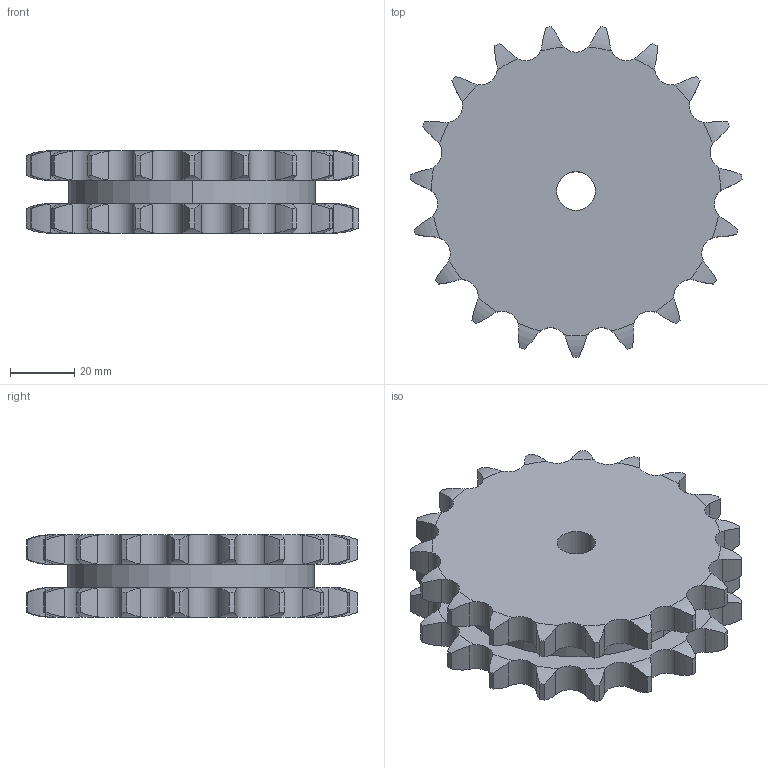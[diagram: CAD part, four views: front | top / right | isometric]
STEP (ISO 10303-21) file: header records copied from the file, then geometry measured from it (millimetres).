
FILE_DESCRIPTION((''),'2;1');
FILE_NAME('500-302-0019_PRT','2021-02-12T',('Brieden'),('Brieden'),'PRO/ENGINEER BY PARAMETRIC TECHNOLOGY CORPORATION, 2010160','PRO/ENGINEER BY PARAMETRIC TECHNOLOGY CORPORATION, 2010160','');
FILE_SCHEMA(('AUTOMOTIVE_DESIGN { 1 0 10303 214 1 1 1 1 }'));
Length unit declared in the file: millimetre
Products named in the file (1): 500-302-0019_PRT
Bounding box: 103.06 x 102.72 x 25.5 mm (x, y, z)
Volume: 152410.3 mm3; surface area: 28188.5 mm2
Topology: 1 solids, 1 shells, 236 faces, 696 edges, 464 vertices
Faces by surface type: cylinder 156, torus 76, plane 4
Entity records: 11016 total; most frequent: CARTESIAN_POINT 2925, ORIENTED_EDGE 1392, DIRECTION 1100, PRESENTATION_STYLE_ASSIGNMENT 697, STYLED_ITEM 697, CURVE_STYLE 696, EDGE_CURVE 696, AXIS2_PLACEMENT_3D 472
